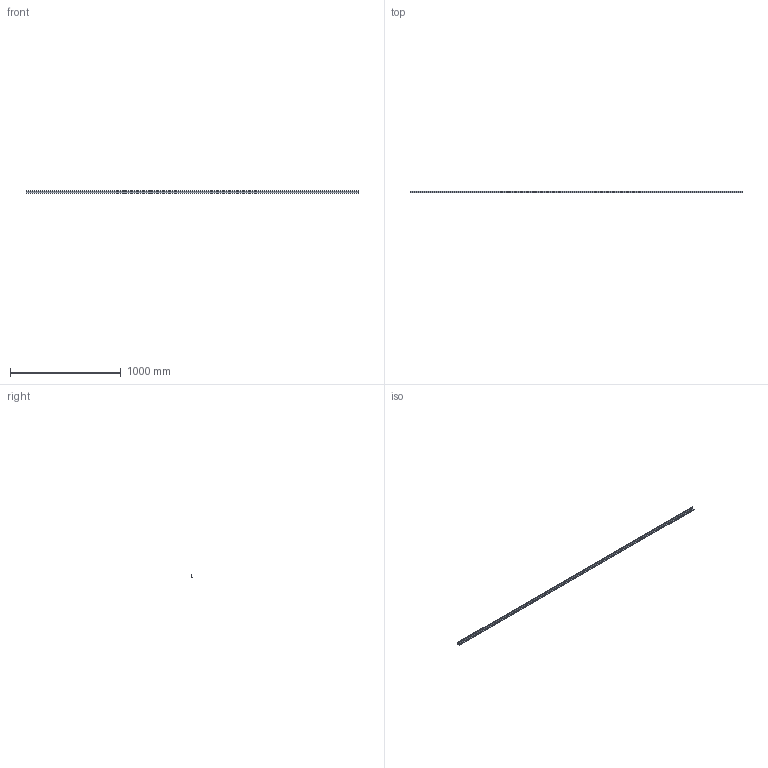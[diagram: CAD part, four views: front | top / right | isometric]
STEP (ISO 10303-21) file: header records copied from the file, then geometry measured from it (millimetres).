
FILE_DESCRIPTION (( 'STEP AP214' ), '1' );
FILE_NAME ('FABER - FSRP 3.step', '2017-04-06T07:46:21', ( '' ), ( '' ), 'SwSTEP 2.0', 'SolidWorks 2016', '' );
FILE_SCHEMA (( 'AUTOMOTIVE_DESIGN' ));
Length unit declared in the file: millimetre
Products named in the file (1): FABER - FSRP 3
Bounding box: 3000 x 18 x 25 mm (x, y, z)
Volume: 239266.3 mm3; surface area: 260738.4 mm2
Topology: 1 solids, 1 shells, 19 faces, 51 edges, 34 vertices
Faces by surface type: plane 11, cylinder 8
Entity records: 635 total; most frequent: DIRECTION 107, CARTESIAN_POINT 105, ORIENTED_EDGE 102, EDGE_CURVE 51, AXIS2_PLACEMENT_3D 36, LINE 35, VECTOR 35, VERTEX_POINT 34
